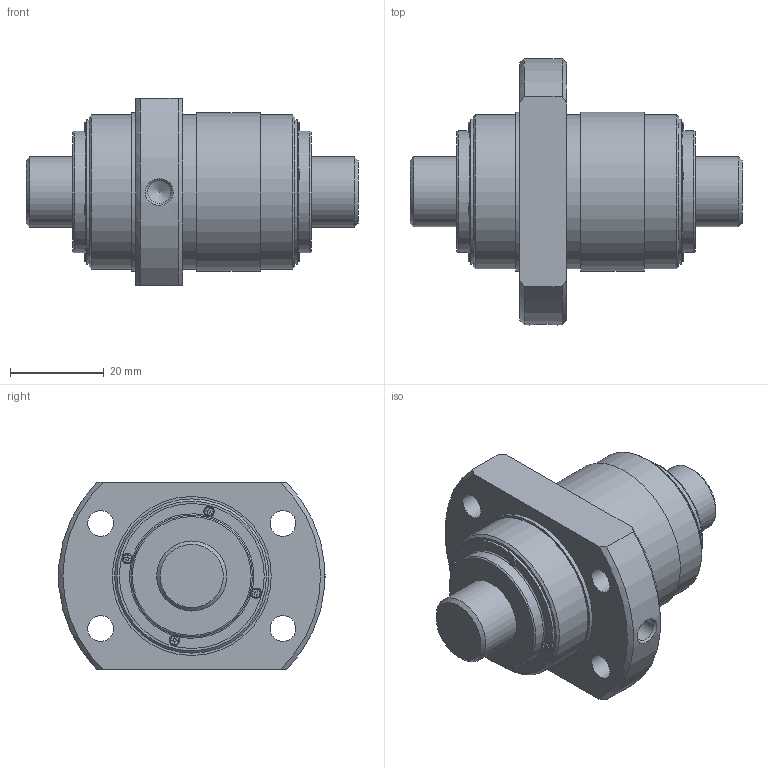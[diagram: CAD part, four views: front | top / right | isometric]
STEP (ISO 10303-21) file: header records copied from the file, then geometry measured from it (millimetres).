
FILE_DESCRIPTION(/* description */ ('STEP AP203'),/* implementation_level */ '2;1');
FILE_NAME(/* name */ 'BLK1510-5.6ZZ+71LC7T_000',/* time_stamp */ '2025-06-11T06:24:13+02:00',/* author */ ('License CC BY-ND 4.0'),/* organization */ ('CADENAS'),/* preprocessor_version */ 'ST-DEVELOPER v19.3',/* originating_system */ 'PARTsolutions',/* authorisation */ ' ');
FILE_SCHEMA (('CONFIG_CONTROL_DESIGN'));
Length unit declared in the file: millimetre
Products named in the file (3): BLK1510-5.6ZZ+71LC7T_000; BLK1510-5.60ZZ0 Shaft; BLK1510-5.6ZZ Nut
Assembly tree (2 placements, depth 2):
  BLK1510-5.6ZZ+71LC7T_000
    BLK1510-5.60ZZ0 Shaft
    BLK1510-5.6ZZ Nut
Bounding box: 71 x 56.89 x 40 mm (x, y, z)
Volume: 56823 mm3; surface area: 16310.7 mm2
Topology: 2 solids, 2 shells, 207 faces, 541 edges, 355 vertices
Faces by surface type: plane 127, cylinder 58, torus 12, cone 10
Full cylindrical faces by diameter (mm): 2.24 x8, 4.917 x1, 5.5 x4, 15 x2, 26 x2, 31 x2, 33 x3, 34 x2
Entity records: 6154 total; most frequent: CARTESIAN_POINT 1107, DIRECTION 1032, ORIENTED_EDGE 974, EDGE_CURVE 487, AXIS2_PLACEMENT_3D 352, VERTEX_POINT 344, LINE 328, VECTOR 328
